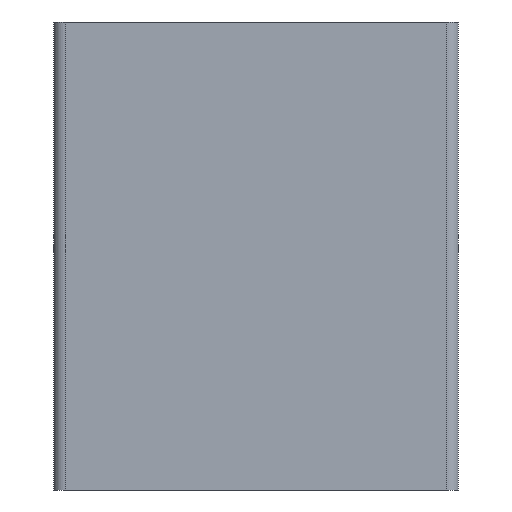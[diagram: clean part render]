
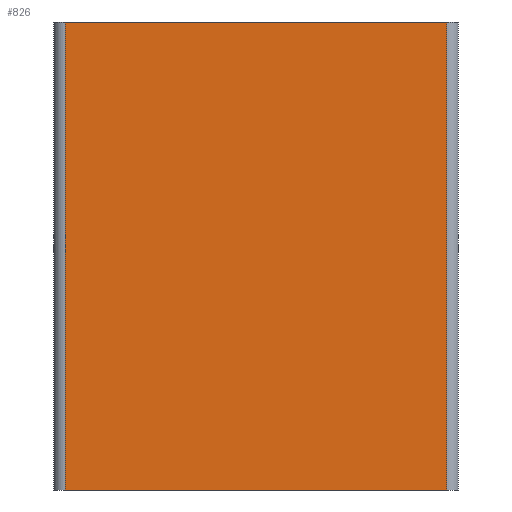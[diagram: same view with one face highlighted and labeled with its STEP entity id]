
A CAD part, front view. The second image highlights one B-rep face of the part: STEP entity #826.
In plain terms, the highlighted planar face has unit normal (0, -1, 0).
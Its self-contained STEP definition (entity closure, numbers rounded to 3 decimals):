
#44 = PLANE('',#45);
#45 = AXIS2_PLACEMENT_3D('',#46,#47,#48);
#46 = CARTESIAN_POINT('',(-24.17,-13.6,27.95));
#47 = DIRECTION('',(0.,0.,1.));
#48 = DIRECTION('',(1.,0.,0.));
#72 = CYLINDRICAL_SURFACE('',#73,1.395);
#73 = AXIS2_PLACEMENT_3D('',#74,#75,#76);
#74 = CARTESIAN_POINT('',(-22.775,-12.205,-27.95));
#75 = DIRECTION('',(0.,0.,1.));
#76 = DIRECTION('',(-1.,-0.,0.));
#100 = PLANE('',#101);
#101 = AXIS2_PLACEMENT_3D('',#102,#103,#104);
#102 = CARTESIAN_POINT('',(-24.17,-13.6,-27.95));
#103 = DIRECTION('',(0.,0.,1.));
#104 = DIRECTION('',(1.,0.,0.));
#143 = VERTEX_POINT('',#144);
#144 = CARTESIAN_POINT('',(-22.775,-13.6,27.95));
#166 = EDGE_CURVE('',#143,#167,#169,.T.);
#167 = VERTEX_POINT('',#168);
#168 = CARTESIAN_POINT('',(22.775,-13.6,27.95));
#169 = SURFACE_CURVE('',#170,(#174,#181),.PCURVE_S1.);
#170 = LINE('',#171,#172);
#171 = CARTESIAN_POINT('',(-24.17,-13.6,27.95));
#172 = VECTOR('',#173,1.);
#173 = DIRECTION('',(1.,0.,0.));
#174 = PCURVE('',#44,#175);
#175 = DEFINITIONAL_REPRESENTATION('',(#176),#180);
#176 = LINE('',#177,#178);
#177 = CARTESIAN_POINT('',(0.,0.));
#178 = VECTOR('',#179,1.);
#179 = DIRECTION('',(1.,0.));
#180 = ( GEOMETRIC_REPRESENTATION_CONTEXT(2) 
PARAMETRIC_REPRESENTATION_CONTEXT() REPRESENTATION_CONTEXT('2D SPACE',''
  ) );
#181 = PCURVE('',#182,#187);
#182 = PLANE('',#183);
#183 = AXIS2_PLACEMENT_3D('',#184,#185,#186);
#184 = CARTESIAN_POINT('',(-24.17,-13.6,-27.95));
#185 = DIRECTION('',(0.,1.,0.));
#186 = DIRECTION('',(0.,0.,1.));
#187 = DEFINITIONAL_REPRESENTATION('',(#188),#192);
#188 = LINE('',#189,#190);
#189 = CARTESIAN_POINT('',(55.9,0.));
#190 = VECTOR('',#191,1.);
#191 = DIRECTION('',(0.,1.));
#192 = ( GEOMETRIC_REPRESENTATION_CONTEXT(2) 
PARAMETRIC_REPRESENTATION_CONTEXT() REPRESENTATION_CONTEXT('2D SPACE',''
  ) );
#211 = CYLINDRICAL_SURFACE('',#212,1.395);
#212 = AXIS2_PLACEMENT_3D('',#213,#214,#215);
#213 = CARTESIAN_POINT('',(22.775,-12.205,-27.95));
#214 = DIRECTION('',(0.,0.,1.));
#215 = DIRECTION('',(0.,-1.,0.));
#482 = VERTEX_POINT('',#483);
#483 = CARTESIAN_POINT('',(-22.775,-13.6,-27.95));
#505 = EDGE_CURVE('',#482,#143,#506,.T.);
#506 = SURFACE_CURVE('',#507,(#511,#518),.PCURVE_S1.);
#507 = LINE('',#508,#509);
#508 = CARTESIAN_POINT('',(-22.775,-13.6,-27.95));
#509 = VECTOR('',#510,1.);
#510 = DIRECTION('',(0.,0.,1.));
#511 = PCURVE('',#72,#512);
#512 = DEFINITIONAL_REPRESENTATION('',(#513),#517);
#513 = LINE('',#514,#515);
#514 = CARTESIAN_POINT('',(1.571,0.));
#515 = VECTOR('',#516,1.);
#516 = DIRECTION('',(0.,1.));
#517 = ( GEOMETRIC_REPRESENTATION_CONTEXT(2) 
PARAMETRIC_REPRESENTATION_CONTEXT() REPRESENTATION_CONTEXT('2D SPACE',''
  ) );
#518 = PCURVE('',#182,#519);
#519 = DEFINITIONAL_REPRESENTATION('',(#520),#524);
#520 = LINE('',#521,#522);
#521 = CARTESIAN_POINT('',(0.,1.395));
#522 = VECTOR('',#523,1.);
#523 = DIRECTION('',(1.,0.));
#524 = ( GEOMETRIC_REPRESENTATION_CONTEXT(2) 
PARAMETRIC_REPRESENTATION_CONTEXT() REPRESENTATION_CONTEXT('2D SPACE',''
  ) );
#587 = EDGE_CURVE('',#482,#588,#590,.T.);
#588 = VERTEX_POINT('',#589);
#589 = CARTESIAN_POINT('',(22.775,-13.6,-27.95));
#590 = SURFACE_CURVE('',#591,(#595,#602),.PCURVE_S1.);
#591 = LINE('',#592,#593);
#592 = CARTESIAN_POINT('',(-24.17,-13.6,-27.95));
#593 = VECTOR('',#594,1.);
#594 = DIRECTION('',(1.,0.,0.));
#595 = PCURVE('',#100,#596);
#596 = DEFINITIONAL_REPRESENTATION('',(#597),#601);
#597 = LINE('',#598,#599);
#598 = CARTESIAN_POINT('',(0.,0.));
#599 = VECTOR('',#600,1.);
#600 = DIRECTION('',(1.,0.));
#601 = ( GEOMETRIC_REPRESENTATION_CONTEXT(2) 
PARAMETRIC_REPRESENTATION_CONTEXT() REPRESENTATION_CONTEXT('2D SPACE',''
  ) );
#602 = PCURVE('',#182,#603);
#603 = DEFINITIONAL_REPRESENTATION('',(#604),#608);
#604 = LINE('',#605,#606);
#605 = CARTESIAN_POINT('',(0.,0.));
#606 = VECTOR('',#607,1.);
#607 = DIRECTION('',(0.,1.));
#608 = ( GEOMETRIC_REPRESENTATION_CONTEXT(2) 
PARAMETRIC_REPRESENTATION_CONTEXT() REPRESENTATION_CONTEXT('2D SPACE',''
  ) );
#826 = ADVANCED_FACE('',(#827),#182,.F.);
#827 = FACE_BOUND('',#828,.F.);
#828 = EDGE_LOOP('',(#829,#830,#831,#832));
#829 = ORIENTED_EDGE('',*,*,#587,.F.);
#830 = ORIENTED_EDGE('',*,*,#505,.T.);
#831 = ORIENTED_EDGE('',*,*,#166,.T.);
#832 = ORIENTED_EDGE('',*,*,#833,.F.);
#833 = EDGE_CURVE('',#588,#167,#834,.T.);
#834 = SURFACE_CURVE('',#835,(#839,#846),.PCURVE_S1.);
#835 = LINE('',#836,#837);
#836 = CARTESIAN_POINT('',(22.775,-13.6,-27.95));
#837 = VECTOR('',#838,1.);
#838 = DIRECTION('',(0.,0.,1.));
#839 = PCURVE('',#182,#840);
#840 = DEFINITIONAL_REPRESENTATION('',(#841),#845);
#841 = LINE('',#842,#843);
#842 = CARTESIAN_POINT('',(0.,46.945));
#843 = VECTOR('',#844,1.);
#844 = DIRECTION('',(1.,0.));
#845 = ( GEOMETRIC_REPRESENTATION_CONTEXT(2) 
PARAMETRIC_REPRESENTATION_CONTEXT() REPRESENTATION_CONTEXT('2D SPACE',''
  ) );
#846 = PCURVE('',#211,#847);
#847 = DEFINITIONAL_REPRESENTATION('',(#848),#852);
#848 = LINE('',#849,#850);
#849 = CARTESIAN_POINT('',(0.,0.));
#850 = VECTOR('',#851,1.);
#851 = DIRECTION('',(0.,1.));
#852 = ( GEOMETRIC_REPRESENTATION_CONTEXT(2) 
PARAMETRIC_REPRESENTATION_CONTEXT() REPRESENTATION_CONTEXT('2D SPACE',''
  ) );
